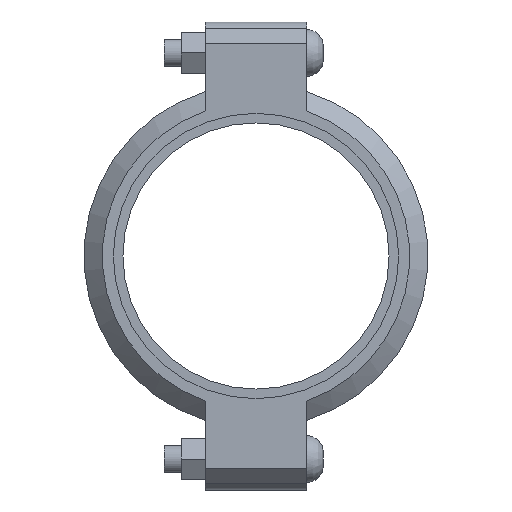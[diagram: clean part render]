
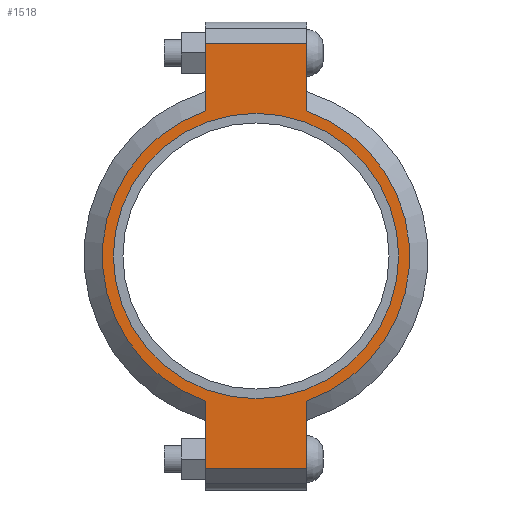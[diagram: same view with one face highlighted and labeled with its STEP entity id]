
A CAD part, left-side view. The second image highlights one B-rep face of the part: STEP entity #1518.
In plain terms, the highlighted planar face has unit normal (-1, 0, 0) as drawn and (0, 0, 1) by its records, which use the part's own axes.
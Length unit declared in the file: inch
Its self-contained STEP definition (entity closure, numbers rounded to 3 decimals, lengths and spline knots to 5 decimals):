
#142=LINE('',#2649,#235);
#150=LINE('',#2685,#243);
#157=LINE('',#2706,#250);
#166=LINE('',#2738,#259);
#167=LINE('',#2742,#260);
#168=LINE('',#2744,#261);
#235=VECTOR('',#2165,0.3937);
#243=VECTOR('',#2181,0.3937);
#250=VECTOR('',#2200,0.3937);
#259=VECTOR('',#2225,0.3937);
#260=VECTOR('',#2230,0.3937);
#261=VECTOR('',#2231,0.3937);
#317=FACE_BOUND('',#495,.T.);
#389=FACE_OUTER_BOUND('',#494,.T.);
#494=EDGE_LOOP('',(#1259,#1260,#1261,#1262,#1263,#1264,#1265,#1266));
#495=EDGE_LOOP('',(#1267));
#567=CIRCLE('',#1737,3.25);
#593=CIRCLE('',#1796,3.5);
#594=CIRCLE('',#1797,3.5);
#659=VERTEX_POINT('',#2465);
#702=VERTEX_POINT('',#2646);
#703=VERTEX_POINT('',#2648);
#714=VERTEX_POINT('',#2680);
#715=VERTEX_POINT('',#2684);
#722=VERTEX_POINT('',#2703);
#723=VERTEX_POINT('',#2705);
#733=VERTEX_POINT('',#2741);
#734=VERTEX_POINT('',#2743);
#815=EDGE_CURVE('',#659,#659,#567,.T.);
#876=EDGE_CURVE('',#703,#702,#142,.T.);
#890=EDGE_CURVE('',#715,#714,#150,.T.);
#900=EDGE_CURVE('',#723,#722,#157,.T.);
#915=EDGE_CURVE('',#715,#702,#166,.T.);
#916=EDGE_CURVE('',#714,#723,#593,.T.);
#917=EDGE_CURVE('',#733,#722,#167,.T.);
#918=EDGE_CURVE('',#733,#734,#168,.T.);
#919=EDGE_CURVE('',#734,#703,#594,.T.);
#1259=ORIENTED_EDGE('',*,*,#915,.F.);
#1260=ORIENTED_EDGE('',*,*,#890,.T.);
#1261=ORIENTED_EDGE('',*,*,#916,.T.);
#1262=ORIENTED_EDGE('',*,*,#900,.T.);
#1263=ORIENTED_EDGE('',*,*,#917,.F.);
#1264=ORIENTED_EDGE('',*,*,#918,.T.);
#1265=ORIENTED_EDGE('',*,*,#919,.T.);
#1266=ORIENTED_EDGE('',*,*,#876,.T.);
#1267=ORIENTED_EDGE('',*,*,#815,.T.);
#1360=PLANE('',#1795);
#1518=ADVANCED_FACE('',(#389,#317),#1360,.T.);
#1737=AXIS2_PLACEMENT_3D('',#2467,#2041,#2042);
#1795=AXIS2_PLACEMENT_3D('',#2739,#2226,#2227);
#1796=AXIS2_PLACEMENT_3D('',#2740,#2228,#2229);
#1797=AXIS2_PLACEMENT_3D('',#2745,#2232,#2233);
#2041=DIRECTION('center_axis',(0.,0.,-1.));
#2042=DIRECTION('ref_axis',(-1.,0.,0.));
#2165=DIRECTION('',(-1.,0.,0.));
#2181=DIRECTION('',(1.,0.,0.));
#2200=DIRECTION('',(1.,0.,0.));
#2225=DIRECTION('',(0.,1.,0.));
#2226=DIRECTION('center_axis',(0.,0.,1.));
#2227=DIRECTION('ref_axis',(1.,0.,0.));
#2228=DIRECTION('center_axis',(0.,0.,1.));
#2229=DIRECTION('ref_axis',(-1.,0.,0.));
#2230=DIRECTION('',(0.,-1.,0.));
#2231=DIRECTION('',(-1.,0.,0.));
#2232=DIRECTION('center_axis',(0.,0.,1.));
#2233=DIRECTION('ref_axis',(-1.,0.,0.));
#2465=CARTESIAN_POINT('',(3.25,0.,1.04));
#2467=CARTESIAN_POINT('Origin',(0.,0.,1.04));
#2646=CARTESIAN_POINT('',(-4.83,1.156,1.04));
#2648=CARTESIAN_POINT('',(-3.30358,1.156,1.04));
#2649=CARTESIAN_POINT('',(-5.33,1.156,1.04));
#2680=CARTESIAN_POINT('',(-3.30358,-1.156,1.04));
#2684=CARTESIAN_POINT('',(-4.83,-1.156,1.04));
#2685=CARTESIAN_POINT('',(5.33,-1.156,1.04));
#2703=CARTESIAN_POINT('',(4.83,-1.156,1.04));
#2705=CARTESIAN_POINT('',(3.30358,-1.156,1.04));
#2706=CARTESIAN_POINT('',(5.33,-1.156,1.04));
#2738=CARTESIAN_POINT('',(-4.83,0.578,1.04));
#2739=CARTESIAN_POINT('Origin',(0.,0.,1.04));
#2740=CARTESIAN_POINT('Origin',(0.,0.,1.04));
#2741=CARTESIAN_POINT('',(4.83,1.156,1.04));
#2742=CARTESIAN_POINT('',(4.83,-0.578,1.04));
#2743=CARTESIAN_POINT('',(3.30358,1.156,1.04));
#2744=CARTESIAN_POINT('',(-5.33,1.156,1.04));
#2745=CARTESIAN_POINT('Origin',(0.,0.,1.04));
